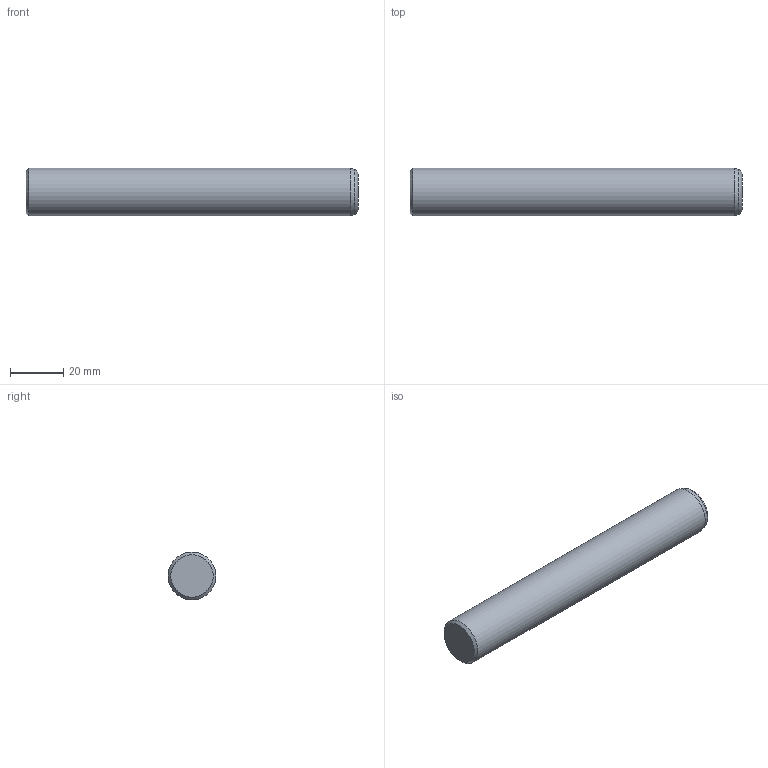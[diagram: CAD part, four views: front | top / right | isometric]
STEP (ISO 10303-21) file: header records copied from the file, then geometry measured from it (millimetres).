
FILE_DESCRIPTION(/* description */ ('Impex Ready, www.impex-ready.pl'),/* implementation_level */ '2;1');
FILE_NAME(/* name */ 'C:\Users\VIKKY\Nextcloud\SM\projekt 10 - części na stronę internetową\Pliki_3D_new\287 Słupy C4\287_C4_STEP\C418125.ipt.step',/* time_stamp */ '2021-12-20T14:21:17+01:00',/* author */ ('SM'),/* organization */ (''),/* preprocessor_version */ 'ST-DEVELOPER v18.1',/* originating_system */ 'Autodesk Inventor 2021',/* authorisation */ '');
FILE_SCHEMA (('AUTOMOTIVE_DESIGN { 1 0 10303 214 3 1 1 }'));
Length unit declared in the file: millimetre
Products named in the file (1): C418125
Bounding box: 125 x 18 x 18 mm (x, y, z)
Volume: 31680.9 mm3; surface area: 7468.6 mm2
Topology: 1 solids, 1 shells, 6 faces, 12 edges, 8 vertices
Faces by surface type: cone 2, plane 2, torus 1, cylinder 1
Full cylindrical faces by diameter (mm): 18 x1
Entity records: 239 total; most frequent: DIRECTION 35, CARTESIAN_POINT 27, ORIENTED_EDGE 24, AXIS2_PLACEMENT_3D 16, EDGE_CURVE 12, CIRCLE 9, VERTEX_POINT 8, STYLED_ITEM 7
